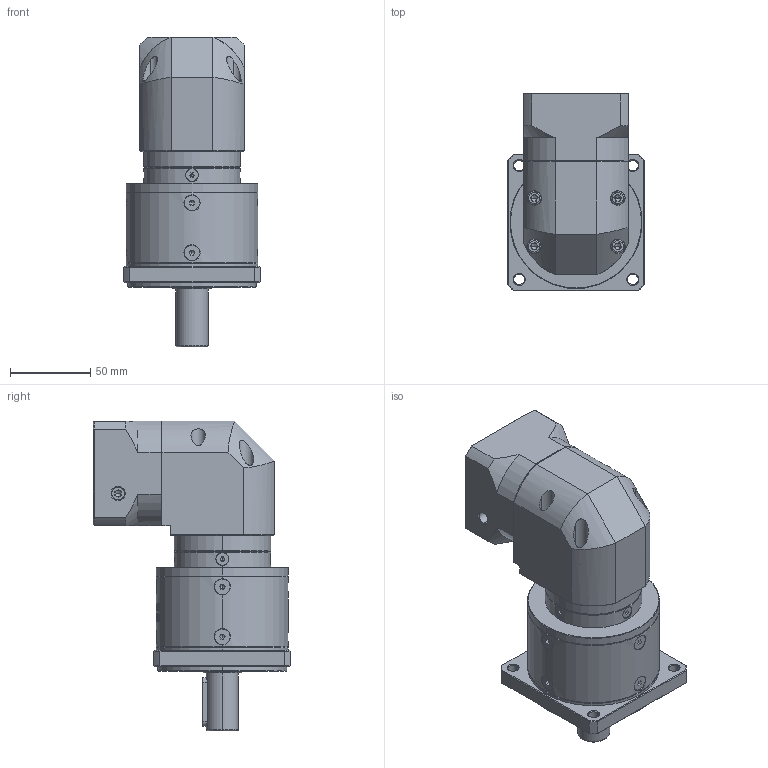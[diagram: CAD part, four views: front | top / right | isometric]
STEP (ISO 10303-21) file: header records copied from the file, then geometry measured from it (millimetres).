
FILE_DESCRIPTION (( 'STEP AP214' ), '1' );
FILE_NAME ('ZFR080-D20-L2-P2-11-60-75-M5.step', '2023-08-25T07:18:00', ( '' ), ( '' ), 'SwSTEP 2.0', 'SolidWorks 2016', '' );
FILE_SCHEMA (( 'AUTOMOTIVE_DESIGN' ));
Length unit declared in the file: millimetre
Products named in the file (1): ZFR080-D20-L2-P2-11-60-75-M5
Bounding box: 85 x 122.7 x 192.5 mm (x, y, z)
Volume: 800380.3 mm3; surface area: 103545.3 mm2
Topology: 17 solids, 18 shells, 2449 faces, 6385 edges, 4051 vertices
Faces by surface type: plane 1176, cylinder 450, bspline 406, cone 381, torus 36
Entity records: 127354 total; most frequent: CARTESIAN_POINT 45238, ORIENTED_EDGE 12678, DIRECTION 9783, EDGE_CURVE 6339, VERTEX_POINT 4051, VECTOR 3375, LINE 3375, AXIS2_PLACEMENT_3D 3204
